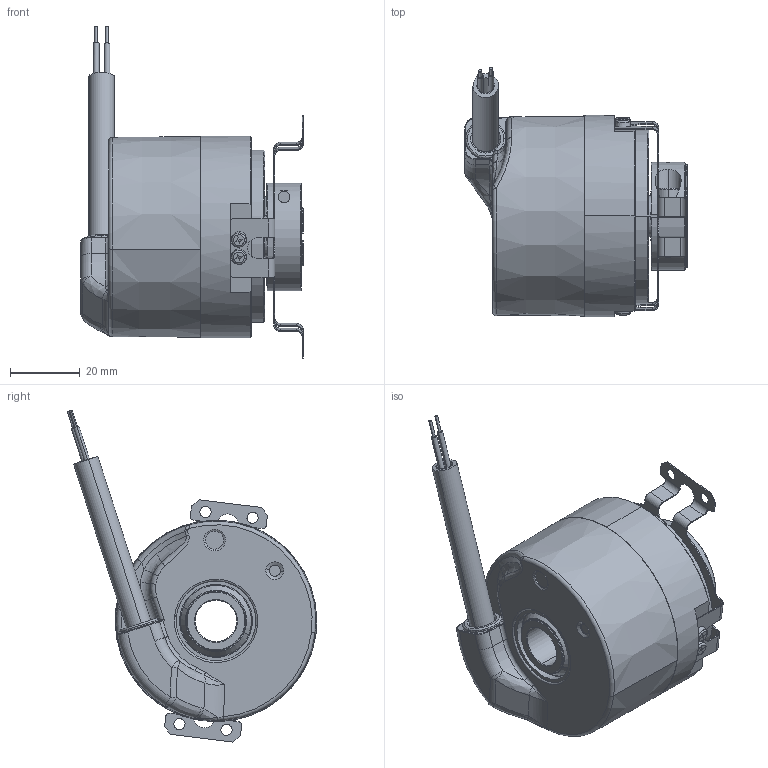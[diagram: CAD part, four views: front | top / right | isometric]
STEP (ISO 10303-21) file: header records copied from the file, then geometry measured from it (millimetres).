
FILE_DESCRIPTION (( 'STEP AP214' ), '1' );
FILE_NAME ('5834SIL.B4XE.XXXX.STEP', '2010-11-18T13:07:07', ( 'admin' ), ( 'Fritz Kübler GmbH' ), 'SwSTEP 2.0', 'SolidWorks 2009', '' );
FILE_SCHEMA (( 'AUTOMOTIVE_DESIGN' ));
Length unit declared in the file: millimetre
Products named in the file (1): 5834SIL.B4XE.XXXX
Bounding box: 64 x 71.81 x 95.55 mm (x, y, z)
Surface area: 27060.4 mm2 (no closed solid volume)
Topology: 0 solids, 16 shells, 434 faces, 1187 edges, 753 vertices
Faces by surface type: plane 174, cylinder 145, cone 52, torus 30, bspline 30, sphere 3
Entity records: 21819 total; most frequent: CARTESIAN_POINT 6076, DIRECTION 2373, ORIENTED_EDGE 2124, EDGE_CURVE 1183, AXIS2_PLACEMENT_3D 898, VERTEX_POINT 753, VECTOR 577, LINE 577
